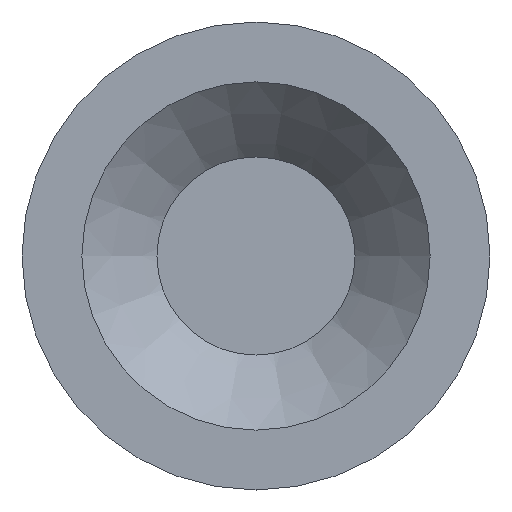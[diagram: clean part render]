
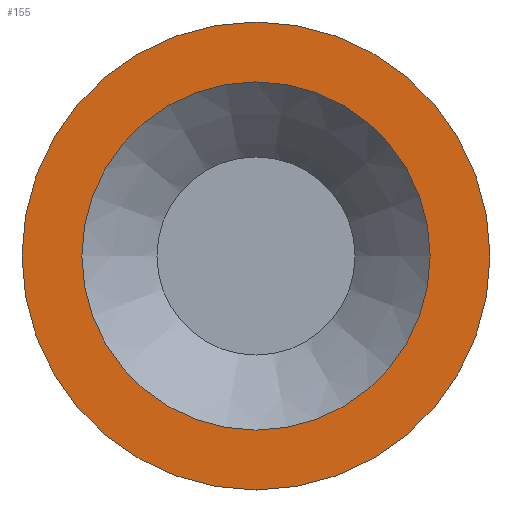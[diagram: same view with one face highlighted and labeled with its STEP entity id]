
A CAD part, left-side view. The second image highlights one B-rep face of the part: STEP entity #155.
In plain terms, the highlighted planar face has unit normal (-1, 0, 0).
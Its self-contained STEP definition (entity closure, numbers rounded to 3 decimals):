
#18=PLANE($,#184);
#36=FACE_BOUND($,#73,.T.);
#48=FACE_OUTER_BOUND($,#72,.T.);
#72=EDGE_LOOP($,(#137));
#73=EDGE_LOOP($,(#138));
#88=CIRCLE($,#183,0.737);
#89=CIRCLE($,#185,0.99);
#101=VERTEX_POINT($,#278);
#102=VERTEX_POINT($,#281);
#114=EDGE_CURVE($,#101,#101,#88,.T.);
#115=EDGE_CURVE($,#102,#102,#89,.T.);
#137=ORIENTED_EDGE($,*,*,#115,.F.);
#138=ORIENTED_EDGE($,*,*,#114,.T.);
#155=ADVANCED_FACE($,(#48,#36),#18,.T.);
#183=AXIS2_PLACEMENT_3D($,#279,#234,#235);
#184=AXIS2_PLACEMENT_3D($,#280,#236,#237);
#185=AXIS2_PLACEMENT_3D($,#282,#238,#239);
#234=DIRECTION('center_axis',(1.,0.,0.));
#235=DIRECTION('ref_axis',(0.,1.,0.));
#236=DIRECTION('center_axis',(-1.,0.,0.));
#237=DIRECTION('ref_axis',(0.,0.,1.));
#238=DIRECTION('center_axis',(1.,0.,0.));
#239=DIRECTION('ref_axis',(0.,1.,0.));
#278=CARTESIAN_POINT('',(4.01,0.737,0.));
#279=CARTESIAN_POINT('Origin',(4.01,0.,0.));
#280=CARTESIAN_POINT('Origin',(4.01,0.863,0.));
#281=CARTESIAN_POINT('',(4.01,0.99,0.));
#282=CARTESIAN_POINT('Origin',(4.01,0.,0.));
